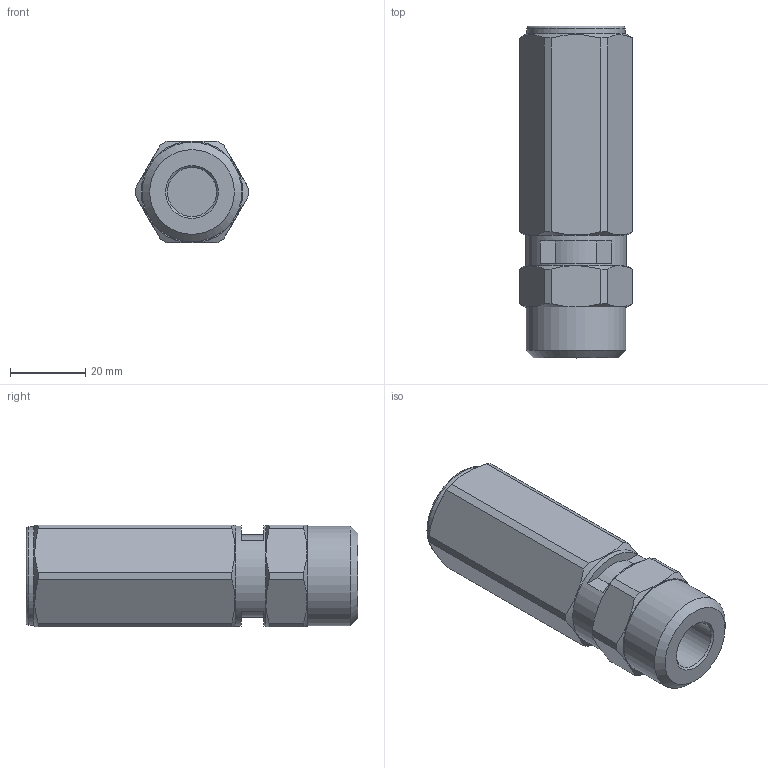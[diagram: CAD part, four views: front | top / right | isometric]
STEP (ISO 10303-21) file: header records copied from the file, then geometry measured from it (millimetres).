
FILE_DESCRIPTION(/* description */ (''),/* implementation_level */ '2;1');
FILE_NAME(/* name */ 'S:\_Tecnico\ArchivioUT\_Disegni3D ingombri\DISEGNI 3D per ingombri\RV\RV101234.stp',/* time_stamp */ '2022-02-07T10:55:50+01:00',/* author */ ('UfficioTecnico'),/* organization */ (''),/* preprocessor_version */ 'ST-DEVELOPER v18.1',/* originating_system */ 'Autodesk Inventor 2022',/* authorisation */ '');
FILE_SCHEMA (('AUTOMOTIVE_DESIGN { 1 0 10303 214 3 1 1 }'));
Length unit declared in the file: millimetre
Products named in the file (1): RV101234
Bounding box: 30 x 88 x 27 mm (x, y, z)
Volume: 47494.2 mm3; surface area: 11055.2 mm2
Topology: 1 solids, 1 shells, 62 faces, 149 edges, 96 vertices
Faces by surface type: plane 39, cone 12, cylinder 10, torus 1
Full cylindrical faces by diameter (mm): 6 x1, 7 x1, 9 x1, 13 x1, 22.5 x1, 26 x1, 26.441 x1, 26.8 x1
Entity records: 1775 total; most frequent: CARTESIAN_POINT 422, ORIENTED_EDGE 298, DIRECTION 256, EDGE_CURVE 149, AXIS2_PLACEMENT_3D 101, VERTEX_POINT 96, EDGE_LOOP 69, FACE_OUTER_BOUND 62
